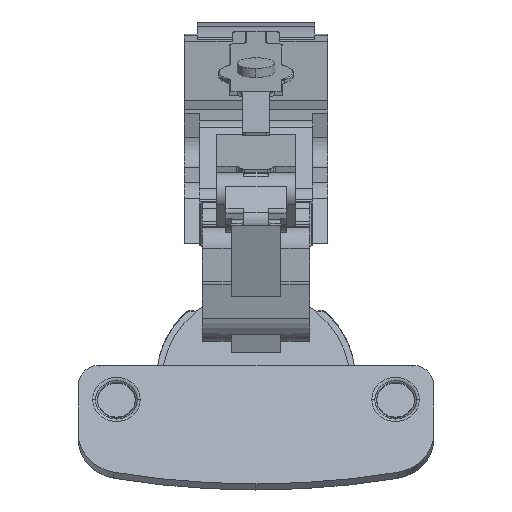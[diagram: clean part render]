
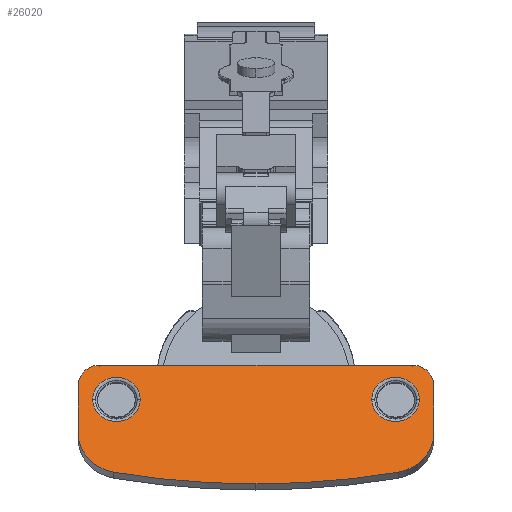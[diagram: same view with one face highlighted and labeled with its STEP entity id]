
A CAD part, top view. The second image highlights one B-rep face of the part: STEP entity #26020.
In plain terms, the highlighted planar face has unit normal (0, 0.375, 0.927).
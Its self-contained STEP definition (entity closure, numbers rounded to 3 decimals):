
#348 = CARTESIAN_POINT ( 'NONE',  ( 55.543, 29.007, 101.786 ) ) ;
#627 = DIRECTION ( 'NONE',  ( 0., -0.927, 0.375 ) ) ;
#746 = CARTESIAN_POINT ( 'NONE',  ( 22.443, 149.618, 53.011 ) ) ;
#772 = CIRCLE ( 'NONE', #4719, 8. ) ;
#814 = LINE ( 'NONE', #348, #6892 ) ;
#946 = DIRECTION ( 'NONE',  ( 0., -0.927, 0.375 ) ) ;
#1111 = VERTEX_POINT ( 'NONE', #26668 ) ;
#1131 = EDGE_LOOP ( 'NONE', ( #1182, #18010, #17484, #23526, #14273, #18485, #26575, #7595, #4164 ) ) ;
#1182 = ORIENTED_EDGE ( 'NONE', *, *, #9560, .T. ) ;
#1355 = CIRCLE ( 'NONE', #18605, 4. ) ;
#1514 = VERTEX_POINT ( 'NONE', #23835 ) ;
#1618 = CARTESIAN_POINT ( 'NONE',  ( -10.657, 20.047, 105.409 ) ) ;
#1739 = CARTESIAN_POINT ( 'NONE',  ( -6.657, 32.715, 100.286 ) ) ;
#1961 = EDGE_CURVE ( 'NONE', #3037, #16164, #11167, .T. ) ;
#2272 = VERTEX_POINT ( 'NONE', #1618 ) ;
#2391 = VERTEX_POINT ( 'NONE', #3429 ) ;
#2600 = VERTEX_POINT ( 'NONE', #7130 ) ;
#2746 = EDGE_CURVE ( 'NONE', #22506, #2272, #29068, .T. ) ;
#2840 = CARTESIAN_POINT ( 'NONE',  ( -10.657, 29.007, 101.786 ) ) ;
#2946 = DIRECTION ( 'NONE',  ( 0., 0.375, 0.927 ) ) ;
#3037 = VERTEX_POINT ( 'NONE', #21120 ) ;
#3057 = VERTEX_POINT ( 'NONE', #23024 ) ;
#3176 = CIRCLE ( 'NONE', #20432, 8. ) ;
#3429 = CARTESIAN_POINT ( 'NONE',  ( 48.957, 12.748, 108.361 ) ) ;
#3527 = DIRECTION ( 'NONE',  ( 0., -0.927, 0.375 ) ) ;
#4164 = ORIENTED_EDGE ( 'NONE', *, *, #20133, .T. ) ;
#4363 = CARTESIAN_POINT ( 'NONE',  ( 48.443, 26.318, 102.873 ) ) ;
#4719 = AXIS2_PLACEMENT_3D ( 'NONE', #23814, #2946, #627 ) ;
#4879 = EDGE_CURVE ( 'NONE', #15339, #1514, #21724, .T. ) ;
#4948 = CIRCLE ( 'NONE', #22225, 4.431 ) ;
#5295 = CARTESIAN_POINT ( 'NONE',  ( 51.543, 32.715, 100.286 ) ) ;
#6684 = DIRECTION ( 'NONE',  ( 0., 0.375, 0.927 ) ) ;
#6892 = VECTOR ( 'NONE', #19648, 1000. ) ;
#7036 = EDGE_LOOP ( 'NONE', ( #18677, #13184 ) ) ;
#7130 = CARTESIAN_POINT ( 'NONE',  ( 22.443, 10.558, 109.246 ) ) ;
#7411 = EDGE_CURVE ( 'NONE', #28313, #19682, #15854, .T. ) ;
#7448 = VERTEX_POINT ( 'NONE', #14561 ) ;
#7595 = ORIENTED_EDGE ( 'NONE', *, *, #24053, .T. ) ;
#7650 = DIRECTION ( 'NONE',  ( 0., 0.375, 0.927 ) ) ;
#7699 = DIRECTION ( 'NONE',  ( 0., 0.375, 0.927 ) ) ;
#8866 = DIRECTION ( 'NONE',  ( 0., -0.927, 0.375 ) ) ;
#9560 = EDGE_CURVE ( 'NONE', #2600, #2391, #28629, .T. ) ;
#9802 = EDGE_CURVE ( 'NONE', #16164, #3037, #4948, .T. ) ;
#9940 = DIRECTION ( 'NONE',  ( 0., 0.375, 0.927 ) ) ;
#9946 = EDGE_LOOP ( 'NONE', ( #17364, #24743 ) ) ;
#10036 = AXIS2_PLACEMENT_3D ( 'NONE', #17748, #12654, #3527 ) ;
#10534 = CIRCLE ( 'NONE', #10036, 150. ) ;
#10870 = AXIS2_PLACEMENT_3D ( 'NONE', #4363, #6684, #29719 ) ;
#11159 = DIRECTION ( 'NONE',  ( -1., 0., 0. ) ) ;
#11167 = CIRCLE ( 'NONE', #15121, 4.431 ) ;
#11230 = DIRECTION ( 'NONE',  ( 0., 0.375, 0.927 ) ) ;
#12096 = DIRECTION ( 'NONE',  ( 0., -0.927, 0.375 ) ) ;
#12221 = CIRCLE ( 'NONE', #22100, 4.431 ) ;
#12654 = DIRECTION ( 'NONE',  ( 0., 0.375, 0.927 ) ) ;
#13184 = ORIENTED_EDGE ( 'NONE', *, *, #28440, .F. ) ;
#13741 = EDGE_CURVE ( 'NONE', #2391, #3057, #772, .T. ) ;
#14273 = ORIENTED_EDGE ( 'NONE', *, *, #21799, .T. ) ;
#14561 = CARTESIAN_POINT ( 'NONE',  ( -4.071, 12.748, 108.361 ) ) ;
#14695 = CARTESIAN_POINT ( 'NONE',  ( -10.657, 20.047, 105.409 ) ) ;
#14840 = CARTESIAN_POINT ( 'NONE',  ( -6.657, 29.007, 101.786 ) ) ;
#15121 = AXIS2_PLACEMENT_3D ( 'NONE', #20338, #18327, #27621 ) ;
#15339 = VERTEX_POINT ( 'NONE', #29634 ) ;
#15459 = DIRECTION ( 'NONE',  ( 0., -0.927, 0.375 ) ) ;
#15854 = CIRCLE ( 'NONE', #16837, 4. ) ;
#16164 = VERTEX_POINT ( 'NONE', #26606 ) ;
#16180 = EDGE_CURVE ( 'NONE', #1111, #22506, #1355, .T. ) ;
#16837 = AXIS2_PLACEMENT_3D ( 'NONE', #17981, #20739, #8866 ) ;
#17276 = DIRECTION ( 'NONE',  ( 0., -0.927, 0.375 ) ) ;
#17364 = ORIENTED_EDGE ( 'NONE', *, *, #1961, .F. ) ;
#17484 = ORIENTED_EDGE ( 'NONE', *, *, #30265, .T. ) ;
#17748 = CARTESIAN_POINT ( 'NONE',  ( 22.443, 149.618, 53.011 ) ) ;
#17981 = CARTESIAN_POINT ( 'NONE',  ( 51.543, 29.007, 101.786 ) ) ;
#18010 = ORIENTED_EDGE ( 'NONE', *, *, #13741, .T. ) ;
#18327 = DIRECTION ( 'NONE',  ( 0., 0.375, 0.927 ) ) ;
#18485 = ORIENTED_EDGE ( 'NONE', *, *, #16180, .T. ) ;
#18565 = LINE ( 'NONE', #1739, #27382 ) ;
#18605 = AXIS2_PLACEMENT_3D ( 'NONE', #14840, #24277, #946 ) ;
#18677 = ORIENTED_EDGE ( 'NONE', *, *, #4879, .F. ) ;
#18951 = CARTESIAN_POINT ( 'NONE',  ( 55.543, 29.007, 101.786 ) ) ;
#19167 = DIRECTION ( 'NONE',  ( 0., -0.927, 0.375 ) ) ;
#19648 = DIRECTION ( 'NONE',  ( 0., 0.927, -0.375 ) ) ;
#19682 = VERTEX_POINT ( 'NONE', #5295 ) ;
#20133 = EDGE_CURVE ( 'NONE', #7448, #2600, #10534, .T. ) ;
#20338 = CARTESIAN_POINT ( 'NONE',  ( -3.557, 26.318, 102.873 ) ) ;
#20432 = AXIS2_PLACEMENT_3D ( 'NONE', #26511, #7650, #15459 ) ;
#20739 = DIRECTION ( 'NONE',  ( 0., 0.375, 0.927 ) ) ;
#21120 = CARTESIAN_POINT ( 'NONE',  ( 0.875, 26.318, 102.873 ) ) ;
#21724 = CIRCLE ( 'NONE', #10870, 4.431 ) ;
#21799 = EDGE_CURVE ( 'NONE', #19682, #1111, #18565, .T. ) ;
#22100 = AXIS2_PLACEMENT_3D ( 'NONE', #23911, #7699, #28709 ) ;
#22225 = AXIS2_PLACEMENT_3D ( 'NONE', #28334, #9940, #12096 ) ;
#22506 = VERTEX_POINT ( 'NONE', #2840 ) ;
#22539 = VECTOR ( 'NONE', #19167, 1000. ) ;
#23024 = CARTESIAN_POINT ( 'NONE',  ( 55.543, 20.047, 105.409 ) ) ;
#23526 = ORIENTED_EDGE ( 'NONE', *, *, #7411, .T. ) ;
#23814 = CARTESIAN_POINT ( 'NONE',  ( 47.543, 20.047, 105.409 ) ) ;
#23835 = CARTESIAN_POINT ( 'NONE',  ( 44.012, 26.318, 102.873 ) ) ;
#23911 = CARTESIAN_POINT ( 'NONE',  ( 48.443, 26.318, 102.873 ) ) ;
#23942 = AXIS2_PLACEMENT_3D ( 'NONE', #25457, #11230, #30080 ) ;
#24053 = EDGE_CURVE ( 'NONE', #2272, #7448, #3176, .T. ) ;
#24277 = DIRECTION ( 'NONE',  ( 0., 0.375, 0.927 ) ) ;
#24743 = ORIENTED_EDGE ( 'NONE', *, *, #9802, .F. ) ;
#25008 = FACE_BOUND ( 'NONE', #7036, .T. ) ;
#25457 = CARTESIAN_POINT ( 'NONE',  ( 51.543, 29.007, 101.786 ) ) ;
#25666 = AXIS2_PLACEMENT_3D ( 'NONE', #746, #26571, #17276 ) ;
#26020 = ADVANCED_FACE ( 'NONE', ( #27769, #25008, #29940 ), #27177, .T. ) ;
#26511 = CARTESIAN_POINT ( 'NONE',  ( -2.657, 20.047, 105.409 ) ) ;
#26571 = DIRECTION ( 'NONE',  ( 0., 0.375, 0.927 ) ) ;
#26575 = ORIENTED_EDGE ( 'NONE', *, *, #2746, .T. ) ;
#26606 = CARTESIAN_POINT ( 'NONE',  ( -7.988, 26.318, 102.873 ) ) ;
#26668 = CARTESIAN_POINT ( 'NONE',  ( -6.657, 32.715, 100.286 ) ) ;
#27177 = PLANE ( 'NONE',  #23942 ) ;
#27382 = VECTOR ( 'NONE', #11159, 1000. ) ;
#27621 = DIRECTION ( 'NONE',  ( 0., -0.927, 0.375 ) ) ;
#27769 = FACE_OUTER_BOUND ( 'NONE', #1131, .T. ) ;
#28313 = VERTEX_POINT ( 'NONE', #18951 ) ;
#28334 = CARTESIAN_POINT ( 'NONE',  ( -3.557, 26.318, 102.873 ) ) ;
#28440 = EDGE_CURVE ( 'NONE', #1514, #15339, #12221, .T. ) ;
#28629 = CIRCLE ( 'NONE', #25666, 150. ) ;
#28709 = DIRECTION ( 'NONE',  ( 0., -0.927, 0.375 ) ) ;
#29068 = LINE ( 'NONE', #14695, #22539 ) ;
#29634 = CARTESIAN_POINT ( 'NONE',  ( 52.875, 26.318, 102.873 ) ) ;
#29719 = DIRECTION ( 'NONE',  ( 0., -0.927, 0.375 ) ) ;
#29940 = FACE_BOUND ( 'NONE', #9946, .T. ) ;
#30080 = DIRECTION ( 'NONE',  ( -1., 0., 0. ) ) ;
#30265 = EDGE_CURVE ( 'NONE', #3057, #28313, #814, .T. ) ;
